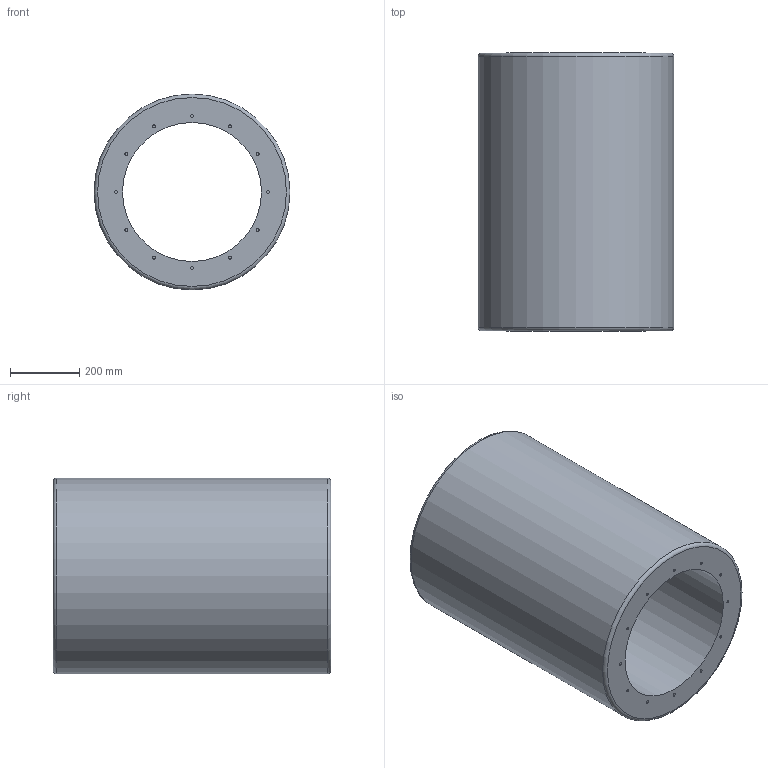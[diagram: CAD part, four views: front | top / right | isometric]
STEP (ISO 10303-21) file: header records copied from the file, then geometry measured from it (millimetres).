
FILE_DESCRIPTION(/* description */ (''),/* implementation_level */ '2;1');
FILE_NAME(/* name */ 'Z:\Output\RSD_400-800-08750-002.stp',/* time_stamp */ '2017-09-20T12:04:07+02:00',/* author */ ('Engineering1'),/* organization */ (''),/* preprocessor_version */ 'ST-DEVELOPER v16.5',/* originating_system */ 'Autodesk Inventor 2017',/* authorisation */ '');
FILE_SCHEMA (('AUTOMOTIVE_DESIGN { 1 0 10303 214 3 1 1 }'));
Length unit declared in the file: millimetre
Products named in the file (1): RSD-1
Bounding box: 564 x 800 x 564 mm (x, y, z)
Volume: 99247136.3 mm3; surface area: 2661866 mm2
Topology: 1 solids, 1 shells, 54 faces, 82 edges, 54 vertices
Faces by surface type: cylinder 26, plane 26, torus 2
Full cylindrical faces by diameter (mm): 8 x24, 400 x1, 564 x1
Entity records: 1126 total; most frequent: DIRECTION 218, CARTESIAN_POINT 163, AXIS2_PLACEMENT_3D 109, EDGE_LOOP 108, ORIENTED_EDGE 108, FACE_BOUND 54, FACE_OUTER_BOUND 54, CIRCLE 54
